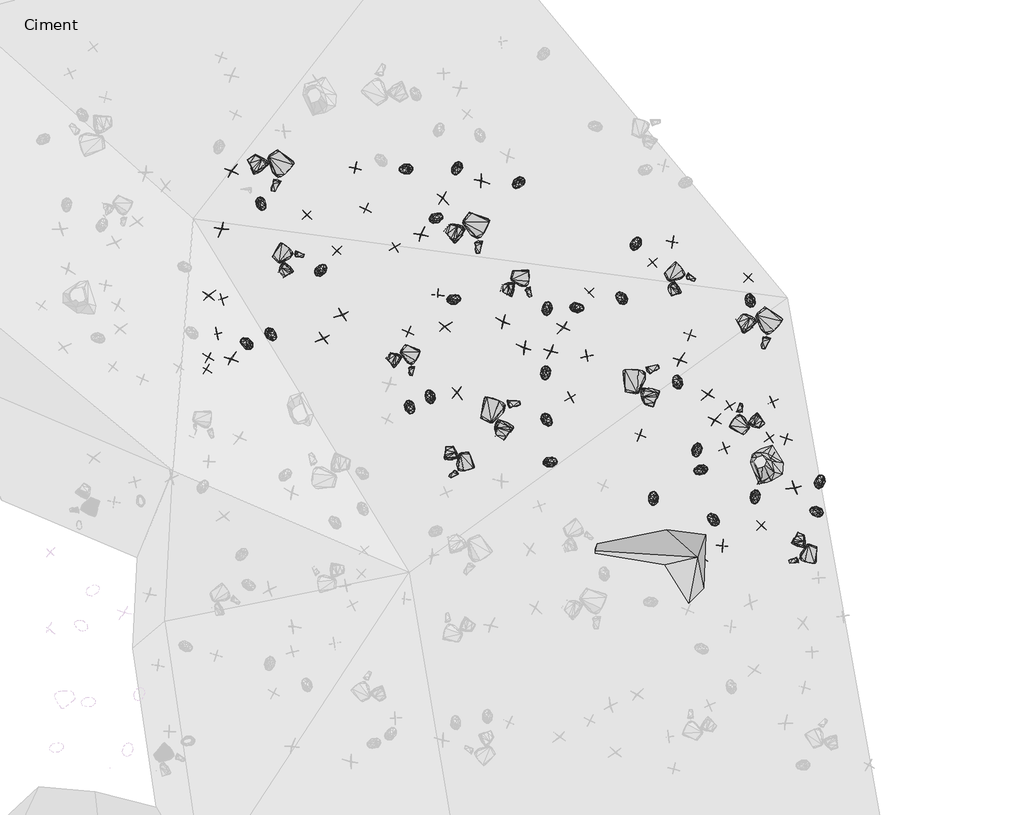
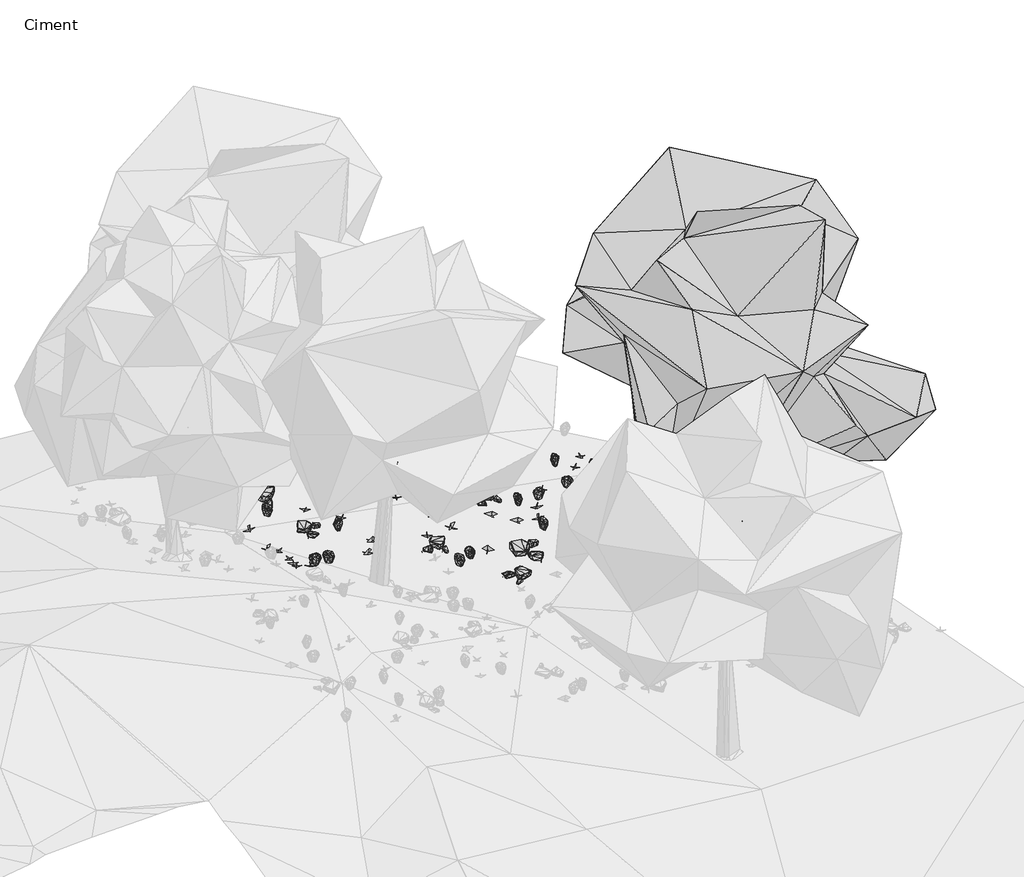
# One storey, part 28 of 30: 90 geographic elements.
"""IFC4 building model written with IfcOpenShell, lengths in millimetres."""

from ifc_helpers import new_model, si_unit, origin, place, context, project, spatial, transform, mapped, element, save
from components import enscape_assetdefinition_bush_025_fern_enscape_5718bf32, enscape_assetdefinition_bush_054_plant_09_version_2_enscape_7b546a12, enscape_assetdefinition_bush_062_plant_09_version_3_enscape_ccf8c8eb, enscape_assetdefinition_deciduous_tree_029_elm_enscape_e4c49baf, enscape_assetdefinition_stone_013_group_enscape_516da325, enscape_assetdefinition_stone_013_group_enscape_db9b3e91

model = new_model("IFC4")

# Units and contexts
model_context = context("Model", 3, world=origin())
ifc_project = project(units=[si_unit("LENGTHUNIT", "METRE", prefix="MILLI")], contexts=[model_context])

# Site, building, storey
site = spatial("IfcSite", under=ifc_project)
building = spatial("IfcBuilding", under=site)
storey = spatial("IfcBuildingStorey", under=building, Name="Ciment", Elevation=-1500.0)

# Geographic elements
placement = place(None, origin())
enscape_assetdefinition_bush_025_fern_enscape_shape = enscape_assetdefinition_bush_025_fern_enscape_5718bf32(model_context)
element("IfcGeographicElement", 1, ObjectType="Enscape AssetDefinition - Bush 025 Fern : Enscape AssetDefinition - Bush 025 Fern", at=placement, inside=storey, context=model_context, shape_type="MappedRepresentation", body=[
    mapped(enscape_assetdefinition_bush_025_fern_enscape_shape, transform((20054.4872284, 11288.0096436, -2184.7438812), x_axis=(0.42081183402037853, -0.9071479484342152, 0.0), y_axis=(0.9071479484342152, 0.42081183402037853, 0.0), z_axis=(0.0, 0.0, 1.0))),
])
element("IfcGeographicElement", 2, ObjectType="Enscape AssetDefinition - Bush 025 Fern : Enscape AssetDefinition - Bush 025 Fern", at=placement, inside=storey, context=model_context, shape_type="MappedRepresentation", body=[
    mapped(enscape_assetdefinition_bush_025_fern_enscape_shape, transform((20574.5754242, 14966.0453796, -2460.9181881), x_axis=(0.8968819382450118, 0.44227004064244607, 0.0), y_axis=(-0.44227004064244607, 0.8968819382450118, 0.0), z_axis=(0.0, 0.0, 1.0))),
])
element("IfcGeographicElement", 3, ObjectType="Enscape AssetDefinition - Bush 025 Fern : Enscape AssetDefinition - Bush 025 Fern", at=placement, inside=storey, context=model_context, shape_type="MappedRepresentation", body=[
    mapped(enscape_assetdefinition_bush_025_fern_enscape_shape, transform((17360.9600067, 12701.5390396, -2011.91926), x_axis=(0.7112962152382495, -0.7028923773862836, 0.0), y_axis=(0.7028923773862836, 0.7112962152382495, 0.0), z_axis=(0.0, 0.0, 1.0))),
])
element("IfcGeographicElement", 4, ObjectType="Enscape AssetDefinition - Bush 025 Fern : Enscape AssetDefinition - Bush 025 Fern", at=placement, inside=storey, context=model_context, shape_type="MappedRepresentation", body=[
    mapped(enscape_assetdefinition_bush_025_fern_enscape_shape, transform((25695.8351135, 10081.7260742, -2724.1954803), x_axis=(-0.9284186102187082, -0.37153584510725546, 0.0), y_axis=(0.37153584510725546, -0.9284186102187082, 0.0), z_axis=(0.0, 0.0, 1.0))),
])
element("IfcGeographicElement", 5, ObjectType="Enscape AssetDefinition - Bush 025 Fern : Enscape AssetDefinition - Bush 025 Fern", at=placement, inside=storey, context=model_context, shape_type="MappedRepresentation", body=[
    mapped(enscape_assetdefinition_bush_025_fern_enscape_shape, transform((19975.7595062, 15923.0690002, -2480.4565907), x_axis=(-0.9720509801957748, -0.234769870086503, 0.0), y_axis=(0.234769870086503, -0.9720509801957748, 0.0), z_axis=(0.0, 0.0, 1.0))),
])
element("IfcGeographicElement", 6, ObjectType="Enscape AssetDefinition - Bush 025 Fern : Enscape AssetDefinition - Bush 025 Fern", at=placement, inside=storey, context=model_context, shape_type="MappedRepresentation", body=[
    mapped(enscape_assetdefinition_bush_025_fern_enscape_shape, transform((28021.9211578, 9855.6346893, -2999.9074936), x_axis=(0.2128321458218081, 0.9770887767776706, 0.0), y_axis=(-0.9770887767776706, 0.2128321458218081, 0.0), z_axis=(0.0, 0.0, 1.0))),
])
element("IfcGeographicElement", 7, ObjectType="Enscape AssetDefinition - Bush 025 Fern : Enscape AssetDefinition - Bush 025 Fern", at=placement, inside=storey, context=model_context, shape_type="MappedRepresentation", body=[
    mapped(enscape_assetdefinition_bush_025_fern_enscape_shape, transform((16887.6781464, 12540.3356552, -1802.878499), x_axis=(-0.8465345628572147, 0.5323337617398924, 0.0), y_axis=(-0.5323337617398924, -0.8465345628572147, 0.0), z_axis=(0.0, 0.0, 1.0))),
])
element("IfcGeographicElement", 8, ObjectType="Enscape AssetDefinition - Bush 025 Fern : Enscape AssetDefinition - Bush 025 Fern", at=placement, inside=storey, context=model_context, shape_type="MappedRepresentation", body=[
    mapped(enscape_assetdefinition_bush_025_fern_enscape_shape, transform((24170.1641083, 13421.8769073, -2696.1760521), x_axis=(-0.7315113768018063, 0.6818292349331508, 0.0), y_axis=(-0.6818292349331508, -0.7315113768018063, 0.0), z_axis=(0.0, 0.0, 1.0))),
])
element("IfcGeographicElement", 9, ObjectType="Enscape AssetDefinition - Bush 025 Fern : Enscape AssetDefinition - Bush 025 Fern", at=placement, inside=storey, context=model_context, shape_type="MappedRepresentation", body=[
    mapped(enscape_assetdefinition_bush_025_fern_enscape_shape, transform((17167.8752899, 15236.1040115, -2150.5351067), x_axis=(0.4676897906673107, -0.8838926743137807, 0.0), y_axis=(0.8838926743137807, 0.4676897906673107, 0.0), z_axis=(0.0, 0.0, 1.0))),
])
element("IfcGeographicElement", 10, ObjectType="Enscape AssetDefinition - Bush 025 Fern : Enscape AssetDefinition - Bush 025 Fern", at=placement, inside=storey, context=model_context, shape_type="MappedRepresentation", body=[
    mapped(enscape_assetdefinition_bush_025_fern_enscape_shape, transform((25624.2542267, 10458.8899612, -2723.654747), x_axis=(-0.10068082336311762, -0.9949187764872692, 0.0), y_axis=(0.9949187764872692, -0.10068082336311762, 0.0), z_axis=(0.0, 0.0, 1.0))),
])
element("IfcGeographicElement", 11, ObjectType="Enscape AssetDefinition - Bush 025 Fern : Enscape AssetDefinition - Bush 025 Fern", at=placement, inside=storey, context=model_context, shape_type="MappedRepresentation", body=[
    mapped(enscape_assetdefinition_bush_025_fern_enscape_shape, transform((22791.7385101, 10229.4559479, -2382.1463585), x_axis=(0.9596051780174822, 0.281350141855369, 0.0), y_axis=(-0.281350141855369, 0.9596051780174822, 0.0), z_axis=(0.0, 0.0, 1.0))),
])
element("IfcGeographicElement", 12, ObjectType="Enscape AssetDefinition - Bush 025 Fern : Enscape AssetDefinition - Bush 025 Fern", at=placement, inside=storey, context=model_context, shape_type="MappedRepresentation", body=[
    mapped(enscape_assetdefinition_bush_025_fern_enscape_shape, transform((25947.8054047, 9123.1899261, -2734.0171337), x_axis=(-0.7325266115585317, 0.6807383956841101, 0.0), y_axis=(-0.6807383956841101, -0.7325266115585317, 0.0), z_axis=(0.0, 0.0, 1.0))),
])
element("IfcGeographicElement", 13, ObjectType="Enscape AssetDefinition - Bush 025 Fern : Enscape AssetDefinition - Bush 025 Fern", at=placement, inside=storey, context=model_context, shape_type="MappedRepresentation", body=[
    mapped(enscape_assetdefinition_bush_025_fern_enscape_shape, transform((20919.462204, 13388.1931305, -2387.3839378), x_axis=(0.9491984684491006, 0.314678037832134, 0.0), y_axis=(-0.314678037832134, 0.9491984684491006, 0.0), z_axis=(0.0, 0.0, 1.0))),
])
element("IfcGeographicElement", 14, ObjectType="Enscape AssetDefinition - Bush 025 Fern : Enscape AssetDefinition - Bush 025 Fern", at=placement, inside=storey, context=model_context, shape_type="MappedRepresentation", body=[
    mapped(enscape_assetdefinition_bush_025_fern_enscape_shape, transform((23308.2904816, 13223.4430313, -2603.3878326), x_axis=(0.9997012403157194, 0.024442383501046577, 0.0), y_axis=(-0.024442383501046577, 0.9997012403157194, 0.0), z_axis=(0.0, 0.0, 1.0))),
])
element("IfcGeographicElement", 15, ObjectType="Enscape AssetDefinition - Bush 025 Fern : Enscape AssetDefinition - Bush 025 Fern", at=placement, inside=storey, context=model_context, shape_type="MappedRepresentation", body=[
    mapped(enscape_assetdefinition_bush_025_fern_enscape_shape, transform((22728.0769348, 13217.5073624, -2548.2764244), x_axis=(0.06502265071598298, 0.9978837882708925, 0.0), y_axis=(-0.9978837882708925, 0.06502265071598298, 0.0), z_axis=(0.0, 0.0, 1.0))),
])
element("IfcGeographicElement", 16, ObjectType="Enscape AssetDefinition - Bush 025 Fern : Enscape AssetDefinition - Bush 025 Fern", at=placement, inside=storey, context=model_context, shape_type="MappedRepresentation", body=[
    mapped(enscape_assetdefinition_bush_025_fern_enscape_shape, transform((20962.6693726, 15930.2425385, -2577.3310661), x_axis=(-0.3619911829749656, -0.9321815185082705, 0.0), y_axis=(0.9321815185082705, -0.3619911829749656, 0.0), z_axis=(0.0, 0.0, 1.0))),
])
element("IfcGeographicElement", 17, ObjectType="Enscape AssetDefinition - Bush 025 Fern : Enscape AssetDefinition - Bush 025 Fern", at=placement, inside=storey, context=model_context, shape_type="MappedRepresentation", body=[
    mapped(enscape_assetdefinition_bush_025_fern_enscape_shape, transform((18337.7285004, 13959.5375061, -2176.5942574), x_axis=(0.6322726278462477, 0.7747459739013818, 0.0), y_axis=(-0.7747459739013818, 0.6322726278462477, 0.0), z_axis=(0.0, 0.0, 1.0))),
])
element("IfcGeographicElement", 18, ObjectType="Enscape AssetDefinition - Bush 025 Fern : Enscape AssetDefinition - Bush 025 Fern", at=placement, inside=storey, context=model_context, shape_type="MappedRepresentation", body=[
    mapped(enscape_assetdefinition_bush_025_fern_enscape_shape, transform((22159.6431732, 15652.0547867, -2671.454668), x_axis=(-0.6968074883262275, -0.7172581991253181, 0.0), y_axis=(0.7172581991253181, -0.6968074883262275, 0.0), z_axis=(0.0, 0.0, 1.0))),
])
element("IfcGeographicElement", 19, ObjectType="Enscape AssetDefinition - Bush 025 Fern : Enscape AssetDefinition - Bush 025 Fern", at=placement, inside=storey, context=model_context, shape_type="MappedRepresentation", body=[
    mapped(enscape_assetdefinition_bush_025_fern_enscape_shape, transform((25253.6029816, 11793.8661575, -2707.596302), x_axis=(-0.36513170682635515, 0.9309558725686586, 0.0), y_axis=(-0.9309558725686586, -0.36513170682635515, 0.0), z_axis=(0.0, 0.0, 1.0))),
])
element("IfcGeographicElement", 20, ObjectType="Enscape AssetDefinition - Bush 025 Fern : Enscape AssetDefinition - Bush 025 Fern", at=placement, inside=storey, context=model_context, shape_type="MappedRepresentation", body=[
    mapped(enscape_assetdefinition_bush_025_fern_enscape_shape, transform((27944.9939728, 9275.6290436, -2978.1823158), x_axis=(-0.9803123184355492, 0.19745318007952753, 0.0), y_axis=(-0.19745318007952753, -0.9803123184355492, 0.0), z_axis=(0.0, 0.0, 1.0))),
])
element("IfcGeographicElement", 21, ObjectType="Enscape AssetDefinition - Bush 025 Fern : Enscape AssetDefinition - Bush 025 Fern", at=placement, inside=storey, context=model_context, shape_type="MappedRepresentation", body=[
    mapped(enscape_assetdefinition_bush_025_fern_enscape_shape, transform((24789.6556854, 9534.7900391, -2603.1579971), x_axis=(-0.13992691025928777, 0.9901618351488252, 0.0), y_axis=(-0.9901618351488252, -0.13992691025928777, 0.0), z_axis=(0.0, 0.0, 1.0))),
])
element("IfcGeographicElement", 22, ObjectType="Enscape AssetDefinition - Bush 025 Fern : Enscape AssetDefinition - Bush 025 Fern", at=placement, inside=storey, context=model_context, shape_type="MappedRepresentation", body=[
    mapped(enscape_assetdefinition_bush_025_fern_enscape_shape, transform((22687.9673004, 11953.5217285, -2471.6727734), x_axis=(0.043731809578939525, -0.9990433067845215, 0.0), y_axis=(0.9990433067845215, 0.043731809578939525, 0.0), z_axis=(0.0, 0.0, 1.0))),
])
element("IfcGeographicElement", 23, ObjectType="Enscape AssetDefinition - Bush 025 Fern : Enscape AssetDefinition - Bush 025 Fern", at=placement, inside=storey, context=model_context, shape_type="MappedRepresentation", body=[
    mapped(enscape_assetdefinition_bush_025_fern_enscape_shape, transform((26664.7186279, 13377.6254654, -2929.1012287), x_axis=(-0.4103715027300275, 0.9119184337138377, 0.0), y_axis=(-0.9119184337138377, -0.4103715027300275, 0.0), z_axis=(0.0, 0.0, 1.0))),
])
element("IfcGeographicElement", 24, ObjectType="Enscape AssetDefinition - Bush 025 Fern : Enscape AssetDefinition - Bush 025 Fern", at=placement, inside=storey, context=model_context, shape_type="MappedRepresentation", body=[
    mapped(enscape_assetdefinition_bush_025_fern_enscape_shape, transform((22715.801239, 11043.9596176, -2421.9014645), x_axis=(0.6394990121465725, -0.76879191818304, 0.0), y_axis=(0.76879191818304, 0.6394990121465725, 0.0), z_axis=(0.0, 0.0, 1.0))),
])
element("IfcGeographicElement", 25, ObjectType="Enscape AssetDefinition - Bush 025 Fern : Enscape AssetDefinition - Bush 025 Fern", at=placement, inside=storey, context=model_context, shape_type="MappedRepresentation", body=[
    mapped(enscape_assetdefinition_bush_025_fern_enscape_shape, transform((26757.226944, 9548.1481552, -2840.7664299), x_axis=(0.008983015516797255, -0.9999596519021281, 0.0), y_axis=(0.9999596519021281, 0.008983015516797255, 0.0), z_axis=(0.0, 0.0, 1.0))),
])
element("IfcGeographicElement", 26, ObjectType="Enscape AssetDefinition - Bush 025 Fern : Enscape AssetDefinition - Bush 025 Fern", at=placement, inside=storey, context=model_context, shape_type="MappedRepresentation", body=[
    mapped(enscape_assetdefinition_bush_025_fern_enscape_shape, transform((25161.5505219, 8557.7907562, -2627.0489693), x_axis=(-0.22365178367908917, -0.9746691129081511, 0.0), y_axis=(0.9746691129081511, -0.22365178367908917, 0.0), z_axis=(0.0, 0.0, 1.0))),
])
element("IfcGeographicElement", 27, ObjectType="Enscape AssetDefinition - Bush 025 Fern : Enscape AssetDefinition - Bush 025 Fern", at=placement, inside=storey, context=model_context, shape_type="MappedRepresentation", body=[
    mapped(enscape_assetdefinition_bush_025_fern_enscape_shape, transform((24452.6767731, 14474.7238159, -2799.270153), x_axis=(0.405579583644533, 0.9140597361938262, 0.0), y_axis=(-0.9140597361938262, 0.405579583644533, 0.0), z_axis=(0.0, 0.0, 1.0))),
])
element("IfcGeographicElement", 28, ObjectType="Enscape AssetDefinition - Bush 025 Fern : Enscape AssetDefinition - Bush 025 Fern", at=placement, inside=storey, context=model_context, shape_type="MappedRepresentation", body=[
    mapped(enscape_assetdefinition_bush_025_fern_enscape_shape, transform((20451.9176483, 11509.0522766, -2234.9936962), x_axis=(-0.3989230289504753, 0.9169844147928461, 0.0), y_axis=(-0.9169844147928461, -0.3989230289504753, 0.0), z_axis=(0.0, 0.0, 1.0))),
])
enscape_assetdefinition_bush_054_plant_09_version_2_enscape_shape = enscape_assetdefinition_bush_054_plant_09_version_2_enscape_7b546a12(model_context)
element("IfcGeographicElement", 29, ObjectType="Enscape AssetDefinition - Bush 054 Plant 09, Version 2 : Enscape AssetDefinition - Bush 054 Plant 09, Version 2", at=placement, inside=storey, context=model_context, shape_type="MappedRepresentation", body=[
    mapped(enscape_assetdefinition_bush_054_plant_09_version_2_enscape_shape, transform((20023.7560272, 12756.3581467, -2266.433239), x_axis=(-0.35693646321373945, -0.9341286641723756, 0.0), y_axis=(0.9341286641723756, -0.35693646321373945, 0.0), z_axis=(0.0, 0.0, 1.0))),
])
element("IfcGeographicElement", 30, ObjectType="Enscape AssetDefinition - Bush 054 Plant 09, Version 2 : Enscape AssetDefinition - Bush 054 Plant 09, Version 2", at=placement, inside=storey, context=model_context, shape_type="MappedRepresentation", body=[
    mapped(enscape_assetdefinition_bush_054_plant_09_version_2_enscape_shape, transform((27043.0164337, 10697.7024078, -2899.90592), x_axis=(0.7793981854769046, 0.6265289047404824, 0.0), y_axis=(-0.6265289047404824, 0.7793981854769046, 0.0), z_axis=(0.0, 0.0, 1.0))),
])
element("IfcGeographicElement", 31, ObjectType="Enscape AssetDefinition - Bush 054 Plant 09, Version 2 : Enscape AssetDefinition - Bush 054 Plant 09, Version 2", at=placement, inside=storey, context=model_context, shape_type="MappedRepresentation", body=[
    mapped(enscape_assetdefinition_bush_054_plant_09_version_2_enscape_shape, transform((23177.6275635, 11481.2431335, -2490.6871319), x_axis=(0.8394634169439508, 0.5434162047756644, 0.0), y_axis=(-0.5434162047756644, 0.8394634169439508, 0.0), z_axis=(0.0, 0.0, 1.0))),
])
element("IfcGeographicElement", 32, ObjectType="Enscape AssetDefinition - Bush 054 Plant 09, Version 2 : Enscape AssetDefinition - Bush 054 Plant 09, Version 2", at=placement, inside=storey, context=model_context, shape_type="MappedRepresentation", body=[
    mapped(enscape_assetdefinition_bush_054_plant_09_version_2_enscape_shape, transform((25155.6529999, 14499.917984, -2869.9102402), x_axis=(0.9954288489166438, -0.09550605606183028, 0.0), y_axis=(0.09550605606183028, 0.9954288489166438, 0.0), z_axis=(0.0, 0.0, 1.0))),
])
element("IfcGeographicElement", 33, ObjectType="Enscape AssetDefinition - Bush 054 Plant 09, Version 2 : Enscape AssetDefinition - Bush 054 Plant 09, Version 2", at=placement, inside=storey, context=model_context, shape_type="MappedRepresentation", body=[
    mapped(enscape_assetdefinition_bush_054_plant_09_version_2_enscape_shape, transform((20596.3840485, 13476.1457443, -2361.9530201), x_axis=(0.0016314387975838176, -0.9999986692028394, 0.0), y_axis=(0.9999986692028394, 0.0016314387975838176, 0.0), z_axis=(0.0, 0.0, 1.0))),
])
element("IfcGeographicElement", 34, ObjectType="Enscape AssetDefinition - Bush 054 Plant 09, Version 2 : Enscape AssetDefinition - Bush 054 Plant 09, Version 2", at=placement, inside=storey, context=model_context, shape_type="MappedRepresentation", body=[
    mapped(enscape_assetdefinition_bush_054_plant_09_version_2_enscape_shape, transform((27066.9956207, 10318.9544678, -2894.6707249), x_axis=(-0.5060645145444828, -0.8624956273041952, 0.0), y_axis=(0.8624956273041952, -0.5060645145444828, 0.0), z_axis=(0.0, 0.0, 1.0))),
])
element("IfcGeographicElement", 35, ObjectType="Enscape AssetDefinition - Bush 054 Plant 09, Version 2 : Enscape AssetDefinition - Bush 054 Plant 09, Version 2", at=placement, inside=storey, context=model_context, shape_type="MappedRepresentation", body=[
    mapped(enscape_assetdefinition_bush_054_plant_09_version_2_enscape_shape, transform((19196.8631744, 15142.537117, -2340.8763409), x_axis=(-0.3776218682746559, -0.9259598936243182, 0.0), y_axis=(0.9259598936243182, -0.3776218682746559, 0.0), z_axis=(0.0, 0.0, 1.0))),
])
element("IfcGeographicElement", 36, ObjectType="Enscape AssetDefinition - Bush 054 Plant 09, Version 2 : Enscape AssetDefinition - Bush 054 Plant 09, Version 2", at=placement, inside=storey, context=model_context, shape_type="MappedRepresentation", body=[
    mapped(enscape_assetdefinition_bush_054_plant_09_version_2_enscape_shape, transform((24776.8993378, 14107.9015732, -2801.0210991), x_axis=(-0.6989738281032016, 0.7151472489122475, 0.0), y_axis=(-0.7151472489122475, -0.6989738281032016, 0.0), z_axis=(0.0, 0.0, 1.0))),
])
element("IfcGeographicElement", 37, ObjectType="Enscape AssetDefinition - Bush 054 Plant 09, Version 2 : Enscape AssetDefinition - Bush 054 Plant 09, Version 2", at=placement, inside=storey, context=model_context, shape_type="MappedRepresentation", body=[
    mapped(enscape_assetdefinition_bush_054_plant_09_version_2_enscape_shape, transform((18639.6808624, 14332.8084946, -2226.6011238), x_axis=(0.7440912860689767, -0.6680779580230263, 0.0), y_axis=(0.6680779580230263, 0.7440912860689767, 0.0), z_axis=(0.0, 0.0, 1.0))),
])
element("IfcGeographicElement", 38, ObjectType="Enscape AssetDefinition - Bush 054 Plant 09, Version 2 : Enscape AssetDefinition - Bush 054 Plant 09, Version 2", at=placement, inside=storey, context=model_context, shape_type="MappedRepresentation", body=[
    mapped(enscape_assetdefinition_bush_054_plant_09_version_2_enscape_shape, transform((27368.9517975, 10686.4261627, -2938.9777184), x_axis=(0.24224091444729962, 0.970216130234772, 0.0), y_axis=(-0.970216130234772, 0.24224091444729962, 0.0), z_axis=(0.0, 0.0, 1.0))),
])
element("IfcGeographicElement", 39, ObjectType="Enscape AssetDefinition - Bush 054 Plant 09, Version 2 : Enscape AssetDefinition - Bush 054 Plant 09, Version 2", at=placement, inside=storey, context=model_context, shape_type="MappedRepresentation", body=[
    mapped(enscape_assetdefinition_bush_054_plant_09_version_2_enscape_shape, transform((23538.3167267, 13524.559021, -2642.4479485), x_axis=(-0.6711086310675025, -0.7413590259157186, 0.0), y_axis=(0.7413590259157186, -0.6711086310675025, 0.0), z_axis=(0.0, 0.0, 1.0))),
])
element("IfcGeographicElement", 40, ObjectType="Enscape AssetDefinition - Bush 054 Plant 09, Version 2 : Enscape AssetDefinition - Bush 054 Plant 09, Version 2", at=placement, inside=storey, context=model_context, shape_type="MappedRepresentation", body=[
    mapped(enscape_assetdefinition_bush_054_plant_09_version_2_enscape_shape, transform((26863.7123108, 9900.188446, -2861.1655235), x_axis=(0.8253308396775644, -0.5646494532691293, 0.0), y_axis=(0.5646494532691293, 0.8253308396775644, 0.0), z_axis=(0.0, 0.0, 1.0))),
])
element("IfcGeographicElement", 41, ObjectType="Enscape AssetDefinition - Bush 054 Plant 09, Version 2 : Enscape AssetDefinition - Bush 054 Plant 09, Version 2", at=placement, inside=storey, context=model_context, shape_type="MappedRepresentation", body=[
    mapped(enscape_assetdefinition_bush_054_plant_09_version_2_enscape_shape, transform((18993.7114716, 15939.658165, -2385.9918118), x_axis=(-0.1620972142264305, -0.9867747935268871, 0.0), y_axis=(0.9867747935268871, -0.1620972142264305, 0.0), z_axis=(0.0, 0.0, 1.0))),
])
element("IfcGeographicElement", 42, ObjectType="Enscape AssetDefinition - Bush 054 Plant 09, Version 2 : Enscape AssetDefinition - Bush 054 Plant 09, Version 2", at=placement, inside=storey, context=model_context, shape_type="MappedRepresentation", body=[
    mapped(enscape_assetdefinition_bush_054_plant_09_version_2_enscape_shape, transform((26629.7855377, 13807.4216843, -2957.324028), x_axis=(0.6329784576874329, 0.7741694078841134, 0.0), y_axis=(-0.7741694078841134, 0.6329784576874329, 0.0), z_axis=(0.0, 0.0, 1.0))),
])
element("IfcGeographicElement", 43, ObjectType="Enscape AssetDefinition - Bush 054 Plant 09, Version 2 : Enscape AssetDefinition - Bush 054 Plant 09, Version 2", at=placement, inside=storey, context=model_context, shape_type="MappedRepresentation", body=[
    mapped(enscape_assetdefinition_bush_054_plant_09_version_2_enscape_shape, transform((26262.4034882, 11317.8405762, -2819.0588951), x_axis=(0.5719176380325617, -0.8203110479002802, 0.0), y_axis=(0.8203110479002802, 0.5719176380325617, 0.0), z_axis=(0.0, 0.0, 1.0))),
])
element("IfcGeographicElement", 44, ObjectType="Enscape AssetDefinition - Bush 054 Plant 09, Version 2 : Enscape AssetDefinition - Bush 054 Plant 09, Version 2", at=placement, inside=storey, context=model_context, shape_type="MappedRepresentation", body=[
    mapped(enscape_assetdefinition_bush_054_plant_09_version_2_enscape_shape, transform((27098.9246368, 11404.7431946, -2921.8220711), x_axis=(-0.8916959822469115, -0.45263481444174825, 0.0), y_axis=(0.45263481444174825, -0.8916959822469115, 0.0), z_axis=(0.0, 0.0, 1.0))),
])
element("IfcGeographicElement", 45, ObjectType="Enscape AssetDefinition - Bush 054 Plant 09, Version 2 : Enscape AssetDefinition - Bush 054 Plant 09, Version 2", at=placement, inside=storey, context=model_context, shape_type="MappedRepresentation", body=[
    mapped(enscape_assetdefinition_bush_054_plant_09_version_2_enscape_shape, transform((18062.4675751, 15024.7421265, -2220.6001282), x_axis=(0.6651081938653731, 0.7467470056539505, 0.0), y_axis=(-0.7467470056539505, 0.6651081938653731, 0.0), z_axis=(0.0, 0.0, 1.0))),
])
element("IfcGeographicElement", 46, ObjectType="Enscape AssetDefinition - Bush 054 Plant 09, Version 2 : Enscape AssetDefinition - Bush 054 Plant 09, Version 2", at=placement, inside=storey, context=model_context, shape_type="MappedRepresentation", body=[
    mapped(enscape_assetdefinition_bush_054_plant_09_version_2_enscape_shape, transform((19775.1941681, 14405.5318832, -2337.9778862), x_axis=(-0.5773016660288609, 0.8165309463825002, 0.0), y_axis=(-0.8165309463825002, -0.5773016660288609, 0.0), z_axis=(0.0, 0.0, 1.0))),
])
element("IfcGeographicElement", 47, ObjectType="Enscape AssetDefinition - Bush 054 Plant 09, Version 2 : Enscape AssetDefinition - Bush 054 Plant 09, Version 2", at=placement, inside=storey, context=model_context, shape_type="MappedRepresentation", body=[
    mapped(enscape_assetdefinition_bush_054_plant_09_version_2_enscape_shape, transform((23488.1916046, 12287.5242233, -2566.4517879), x_axis=(0.25392687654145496, -0.9672234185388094, 0.0), y_axis=(0.9672234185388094, 0.25392687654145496, 0.0), z_axis=(0.0, 0.0, 1.0))),
])
element("IfcGeographicElement", 48, ObjectType="Enscape AssetDefinition - Bush 054 Plant 09, Version 2 : Enscape AssetDefinition - Bush 054 Plant 09, Version 2", at=placement, inside=storey, context=model_context, shape_type="MappedRepresentation", body=[
    mapped(enscape_assetdefinition_bush_054_plant_09_version_2_enscape_shape, transform((26884.38797, 8996.3884354, -2844.2640305), x_axis=(0.641741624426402, 0.7669209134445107, 0.0), y_axis=(-0.7669209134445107, 0.641741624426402, 0.0), z_axis=(0.0, 0.0, 1.0))),
])
element("IfcGeographicElement", 49, ObjectType="Enscape AssetDefinition - Bush 054 Plant 09, Version 2 : Enscape AssetDefinition - Bush 054 Plant 09, Version 2", at=placement, inside=storey, context=model_context, shape_type="MappedRepresentation", body=[
    mapped(enscape_assetdefinition_bush_054_plant_09_version_2_enscape_shape, transform((24527.6966095, 10757.9021454, -2597.8088379), x_axis=(-0.9537206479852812, 0.30069407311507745, 0.0), y_axis=(-0.30069407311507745, -0.9537206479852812, 0.0), z_axis=(0.0, 0.0, 1.0))),
])
element("IfcGeographicElement", 50, ObjectType="Enscape AssetDefinition - Bush 054 Plant 09, Version 2 : Enscape AssetDefinition - Bush 054 Plant 09, Version 2", at=placement, inside=storey, context=model_context, shape_type="MappedRepresentation", body=[
    mapped(enscape_assetdefinition_bush_054_plant_09_version_2_enscape_shape, transform((26169.7216034, 10495.262146, -2790.2281284), x_axis=(0.9085521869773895, 0.4177713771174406, 0.0), y_axis=(-0.4177713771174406, 0.9085521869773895, 0.0), z_axis=(0.0, 0.0, 1.0))),
])
element("IfcGeographicElement", 51, ObjectType="Enscape AssetDefinition - Bush 054 Plant 09, Version 2 : Enscape AssetDefinition - Bush 054 Plant 09, Version 2", at=placement, inside=storey, context=model_context, shape_type="MappedRepresentation", body=[
    mapped(enscape_assetdefinition_bush_054_plant_09_version_2_enscape_shape, transform((25738.7485504, 8376.490593, -2692.7778721), x_axis=(-0.8873557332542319, 0.4610854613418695, 0.0), y_axis=(-0.4610854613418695, -0.8873557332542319, 0.0), z_axis=(0.0, 0.0, 1.0))),
])
element("IfcGeographicElement", 52, ObjectType="Enscape AssetDefinition - Bush 054 Plant 09, Version 2 : Enscape AssetDefinition - Bush 054 Plant 09, Version 2", at=placement, inside=storey, context=model_context, shape_type="MappedRepresentation", body=[
    mapped(enscape_assetdefinition_bush_054_plant_09_version_2_enscape_shape, transform((16309.4367981, 12716.1588669, -1594.450593), x_axis=(0.9693168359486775, 0.24581470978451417, 0.0), y_axis=(-0.24581470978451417, 0.9693168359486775, 0.0), z_axis=(0.0, 0.0, 1.0))),
])
element("IfcGeographicElement", 53, ObjectType="Enscape AssetDefinition - Bush 054 Plant 09, Version 2 : Enscape AssetDefinition - Bush 054 Plant 09, Version 2", at=placement, inside=storey, context=model_context, shape_type="MappedRepresentation", body=[
    mapped(enscape_assetdefinition_bush_054_plant_09_version_2_enscape_shape, transform((16413.1298065, 13396.8086243, -1824.1904974), x_axis=(-0.34982229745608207, 0.9368160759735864, 0.0), y_axis=(-0.9368160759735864, -0.34982229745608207, 0.0), z_axis=(0.0, 0.0, 1.0))),
])
element("IfcGeographicElement", 54, ObjectType="Enscape AssetDefinition - Bush 054 Plant 09, Version 2 : Enscape AssetDefinition - Bush 054 Plant 09, Version 2", at=placement, inside=storey, context=model_context, shape_type="MappedRepresentation", body=[
    mapped(enscape_assetdefinition_bush_054_plant_09_version_2_enscape_shape, transform((25618.3414459, 8728.2238007, -2685.8029366), x_axis=(-0.4432931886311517, 0.8963766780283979, 0.0), y_axis=(-0.8963766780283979, -0.4432931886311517, 0.0), z_axis=(0.0, 0.0, 1.0))),
])
element("IfcGeographicElement", 55, ObjectType="Enscape AssetDefinition - Bush 054 Plant 09, Version 2 : Enscape AssetDefinition - Bush 054 Plant 09, Version 2", at=placement, inside=storey, context=model_context, shape_type="MappedRepresentation", body=[
    mapped(enscape_assetdefinition_bush_054_plant_09_version_2_enscape_shape, transform((16108.3393097, 12030.166626, -1320.161581), x_axis=(-0.8839772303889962, 0.4675299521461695, 0.0), y_axis=(-0.4675299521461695, -0.8839772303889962, 0.0), z_axis=(0.0, 0.0, 1.0))),
])
element("IfcGeographicElement", 56, ObjectType="Enscape AssetDefinition - Bush 054 Plant 09, Version 2 : Enscape AssetDefinition - Bush 054 Plant 09, Version 2", at=placement, inside=storey, context=model_context, shape_type="MappedRepresentation", body=[
    mapped(enscape_assetdefinition_bush_054_plant_09_version_2_enscape_shape, transform((25498.7201691, 12698.179245, -2779.8938751), x_axis=(0.262816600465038, 0.9648458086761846, 0.0), y_axis=(-0.9648458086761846, 0.262816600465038, 0.0), z_axis=(0.0, 0.0, 1.0))),
])
element("IfcGeographicElement", 57, ObjectType="Enscape AssetDefinition - Bush 054 Plant 09, Version 2 : Enscape AssetDefinition - Bush 054 Plant 09, Version 2", at=placement, inside=storey, context=model_context, shape_type="MappedRepresentation", body=[
    mapped(enscape_assetdefinition_bush_054_plant_09_version_2_enscape_shape, transform((26125.7190704, 8600.7137299, -2744.2643642), x_axis=(0.9996259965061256, -0.027347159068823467, 0.0), y_axis=(0.027347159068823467, 0.9996259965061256, 0.0), z_axis=(0.0, 0.0, 1.0))),
])
element("IfcGeographicElement", 58, ObjectType="Enscape AssetDefinition - Bush 054 Plant 09, Version 2 : Enscape AssetDefinition - Bush 054 Plant 09, Version 2", at=placement, inside=storey, context=model_context, shape_type="MappedRepresentation", body=[
    mapped(enscape_assetdefinition_bush_054_plant_09_version_2_enscape_shape, transform((16151.3957977, 12261.1503601, -1401.607275), x_axis=(0.44666159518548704, 0.8947029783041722, 0.0), y_axis=(-0.8947029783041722, 0.44666159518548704, 0.0), z_axis=(0.0, 0.0, 1.0))),
])
enscape_assetdefinition_bush_062_plant_09_version_3_enscape_shape = enscape_assetdefinition_bush_062_plant_09_version_3_enscape_ccf8c8eb(model_context)
element("IfcGeographicElement", 59, ObjectType="Enscape AssetDefinition - Bush 062 Plant 09, Version 3 : Enscape AssetDefinition - Bush 062 Plant 09, Version 3", at=placement, inside=storey, context=model_context, shape_type="MappedRepresentation", body=[
    mapped(enscape_assetdefinition_bush_062_plant_09_version_3_enscape_shape, transform((18733.8314056, 13083.6076736, -2163.5227203), x_axis=(-0.6182179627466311, 0.7860067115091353, 0.0), y_axis=(-0.7860067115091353, -0.6182179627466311, 0.0), z_axis=(0.0, 0.0, 1.0))),
])
element("IfcGeographicElement", 60, ObjectType="Enscape AssetDefinition - Bush 062 Plant 09, Version 3 : Enscape AssetDefinition - Bush 062 Plant 09, Version 3", at=placement, inside=storey, context=model_context, shape_type="MappedRepresentation", body=[
    mapped(enscape_assetdefinition_bush_062_plant_09_version_3_enscape_shape, transform((21456.6020966, 15689.6419525, -2605.922699), x_axis=(0.06624728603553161, -0.9978032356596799, 0.0), y_axis=(0.9978032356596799, 0.06624728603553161, 0.0), z_axis=(0.0, 0.0, 1.0))),
])
element("IfcGeographicElement", 61, ObjectType="Enscape AssetDefinition - Bush 062 Plant 09, Version 3 : Enscape AssetDefinition - Bush 062 Plant 09, Version 3", at=placement, inside=storey, context=model_context, shape_type="MappedRepresentation", body=[
    mapped(enscape_assetdefinition_bush_062_plant_09_version_3_enscape_shape, transform((25983.4346771, 11054.7523499, -2779.7646523), x_axis=(0.9437887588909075, -0.33054920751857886, 0.0), y_axis=(0.33054920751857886, 0.9437887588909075, 0.0), z_axis=(0.0, 0.0, 1.0))),
])
element("IfcGeographicElement", 62, ObjectType="Enscape AssetDefinition - Bush 062 Plant 09, Version 3 : Enscape AssetDefinition - Bush 062 Plant 09, Version 3", at=placement, inside=storey, context=model_context, shape_type="MappedRepresentation", body=[
    mapped(enscape_assetdefinition_bush_062_plant_09_version_3_enscape_shape, transform((16595.5638885, 12243.1631088, -1593.328476), x_axis=(0.9745801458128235, -0.22403914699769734, 0.0), y_axis=(0.22403914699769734, 0.9745801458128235, 0.0), z_axis=(0.0, 0.0, 1.0))),
])
element("IfcGeographicElement", 63, ObjectType="Enscape AssetDefinition - Bush 062 Plant 09, Version 3 : Enscape AssetDefinition - Bush 062 Plant 09, Version 3", at=placement, inside=storey, context=model_context, shape_type="MappedRepresentation", body=[
    mapped(enscape_assetdefinition_bush_062_plant_09_version_3_enscape_shape, transform((27513.1092072, 9726.9582748, -2935.77528), x_axis=(-0.4729310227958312, 0.8810994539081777, 0.0), y_axis=(-0.8810994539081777, -0.4729310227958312, 0.0), z_axis=(0.0, 0.0, 1.0))),
])
element("IfcGeographicElement", 64, ObjectType="Enscape AssetDefinition - Bush 062 Plant 09, Version 3 : Enscape AssetDefinition - Bush 062 Plant 09, Version 3", at=placement, inside=storey, context=model_context, shape_type="MappedRepresentation", body=[
    mapped(enscape_assetdefinition_bush_062_plant_09_version_3_enscape_shape, transform((25306.6577911, 12223.4869003, -2734.4174385), x_axis=(0.9820969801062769, -0.188376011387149, 0.0), y_axis=(0.188376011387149, 0.9820969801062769, 0.0), z_axis=(0.0, 0.0, 1.0))),
])
element("IfcGeographicElement", 65, ObjectType="Enscape AssetDefinition - Bush 062 Plant 09, Version 3 : Enscape AssetDefinition - Bush 062 Plant 09, Version 3", at=placement, inside=storey, context=model_context, shape_type="MappedRepresentation", body=[
    mapped(enscape_assetdefinition_bush_062_plant_09_version_3_enscape_shape, transform((21859.12323, 12955.2516937, -2451.1427879), x_axis=(0.11587649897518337, 0.9932636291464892, 0.0), y_axis=(-0.9932636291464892, 0.11587649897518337, 0.0), z_axis=(0.0, 0.0, 1.0))),
])
element("IfcGeographicElement", 66, ObjectType="Enscape AssetDefinition - Bush 062 Plant 09, Version 3 : Enscape AssetDefinition - Bush 062 Plant 09, Version 3", at=placement, inside=storey, context=model_context, shape_type="MappedRepresentation", body=[
    mapped(enscape_assetdefinition_bush_062_plant_09_version_3_enscape_shape, transform((18367.2504425, 12622.3659515, -2102.347374), x_axis=(-0.6906059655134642, 0.7232312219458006, 0.0), y_axis=(-0.7232312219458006, -0.6906059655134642, 0.0), z_axis=(0.0, 0.0, 1.0))),
])
element("IfcGeographicElement", 67, ObjectType="Enscape AssetDefinition - Bush 062 Plant 09, Version 3 : Enscape AssetDefinition - Bush 062 Plant 09, Version 3", at=placement, inside=storey, context=model_context, shape_type="MappedRepresentation", body=[
    mapped(enscape_assetdefinition_bush_062_plant_09_version_3_enscape_shape, transform((22269.0677643, 12450.387001, -2460.7541561), x_axis=(0.061175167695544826, 0.9981270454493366, 0.0), y_axis=(-0.9981270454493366, 0.061175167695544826, 0.0), z_axis=(0.0, 0.0, 1.0))),
])
element("IfcGeographicElement", 68, ObjectType="Enscape AssetDefinition - Bush 062 Plant 09, Version 3 : Enscape AssetDefinition - Bush 062 Plant 09, Version 3", at=placement, inside=storey, context=model_context, shape_type="MappedRepresentation", body=[
    mapped(enscape_assetdefinition_bush_062_plant_09_version_3_enscape_shape, transform((20277.1015167, 14658.1859589, -2406.815052), x_axis=(0.9982894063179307, -0.05846589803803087, 0.0), y_axis=(0.05846589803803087, 0.9982894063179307, 0.0), z_axis=(0.0, 0.0, 1.0))),
])
element("IfcGeographicElement", 69, ObjectType="Enscape AssetDefinition - Bush 062 Plant 09, Version 3 : Enscape AssetDefinition - Bush 062 Plant 09, Version 3", at=placement, inside=storey, context=model_context, shape_type="MappedRepresentation", body=[
    mapped(enscape_assetdefinition_bush_062_plant_09_version_3_enscape_shape, transform((16162.0121002, 13472.864151, -1733.5926294), x_axis=(0.86126764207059, -0.5081516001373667, 0.0), y_axis=(0.5081516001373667, 0.86126764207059, 0.0), z_axis=(0.0, 0.0, 1.0))),
])
element("IfcGeographicElement", 70, ObjectType="Enscape AssetDefinition - Bush 062 Plant 09, Version 3 : Enscape AssetDefinition - Bush 062 Plant 09, Version 3", at=placement, inside=storey, context=model_context, shape_type="MappedRepresentation", body=[
    mapped(enscape_assetdefinition_bush_062_plant_09_version_3_enscape_shape, transform((23027.6050568, 12835.3796005, -2554.5358658), x_axis=(-0.930775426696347, 0.3655914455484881, 0.0), y_axis=(-0.3655914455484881, -0.930775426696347, 0.0), z_axis=(0.0, 0.0, 1.0))),
])
element("IfcGeographicElement", 71, ObjectType="Enscape AssetDefinition - Bush 062 Plant 09, Version 3 : Enscape AssetDefinition - Bush 062 Plant 09, Version 3", at=placement, inside=storey, context=model_context, shape_type="MappedRepresentation", body=[
    mapped(enscape_assetdefinition_bush_062_plant_09_version_3_enscape_shape, transform((20746.4122772, 12869.5449829, -2341.1695957), x_axis=(0.8076454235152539, -0.5896684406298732, 0.0), y_axis=(0.5896684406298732, 0.8076454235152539, 0.0), z_axis=(0.0, 0.0, 1.0))),
])
element("IfcGeographicElement", 72, ObjectType="Enscape AssetDefinition - Bush 062 Plant 09, Version 3 : Enscape AssetDefinition - Bush 062 Plant 09, Version 3", at=placement, inside=storey, context=model_context, shape_type="MappedRepresentation", body=[
    mapped(enscape_assetdefinition_bush_062_plant_09_version_3_enscape_shape, transform((16604.8107147, 15889.1181946, -2148.7956047), x_axis=(0.9558379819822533, -0.2938941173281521, 0.0), y_axis=(0.2938941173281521, 0.9558379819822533, 0.0), z_axis=(0.0, 0.0, 1.0))),
])
element("IfcGeographicElement", 73, ObjectType="Enscape AssetDefinition - Bush 062 Plant 09, Version 3 : Enscape AssetDefinition - Bush 062 Plant 09, Version 3", at=placement, inside=storey, context=model_context, shape_type="MappedRepresentation", body=[
    mapped(enscape_assetdefinition_bush_062_plant_09_version_3_enscape_shape, transform((16403.1848907, 14742.9542542, -2039.1135216), x_axis=(-0.9999208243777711, 0.012583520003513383, 0.0), y_axis=(-0.012583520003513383, -0.9999208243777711, 0.0), z_axis=(0.0, 0.0, 1.0))),
])
element("IfcGeographicElement", 74, ObjectType="Enscape AssetDefinition - Bush 062 Plant 09, Version 3 : Enscape AssetDefinition - Bush 062 Plant 09, Version 3", at=placement, inside=storey, context=model_context, shape_type="MappedRepresentation", body=[
    mapped(enscape_assetdefinition_bush_062_plant_09_version_3_enscape_shape, transform((22791.5935516, 12369.0137863, -2505.3908825), x_axis=(-0.9932399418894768, 0.11607936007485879, 0.0), y_axis=(-0.11607936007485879, -0.9932399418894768, 0.0), z_axis=(0.0, 0.0, 1.0))),
])
element("IfcGeographicElement", 75, ObjectType="Enscape AssetDefinition - Bush 062 Plant 09, Version 3 : Enscape AssetDefinition - Bush 062 Plant 09, Version 3", at=placement, inside=storey, context=model_context, shape_type="MappedRepresentation", body=[
    mapped(enscape_assetdefinition_bush_062_plant_09_version_3_enscape_shape, transform((25837.4786377, 11533.1907272, -2772.4280357), x_axis=(-0.8965475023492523, 0.44294759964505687, 0.0), y_axis=(-0.44294759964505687, -0.8965475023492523, 0.0), z_axis=(0.0, 0.0, 1.0))),
])
element("IfcGeographicElement", 76, ObjectType="Enscape AssetDefinition - Bush 062 Plant 09, Version 3 : Enscape AssetDefinition - Bush 062 Plant 09, Version 3", at=placement, inside=storey, context=model_context, shape_type="MappedRepresentation", body=[
    mapped(enscape_assetdefinition_bush_062_plant_09_version_3_enscape_shape, transform((20984.7984314, 11572.1483231, -2288.9301777), x_axis=(-0.5107613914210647, -0.859722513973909, 0.0), y_axis=(0.859722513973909, -0.5107613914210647, 0.0), z_axis=(0.0, 0.0, 1.0))),
])
element("IfcGeographicElement", 77, ObjectType="Enscape AssetDefinition - Bush 062 Plant 09, Version 3 : Enscape AssetDefinition - Bush 062 Plant 09, Version 3", at=placement, inside=storey, context=model_context, shape_type="MappedRepresentation", body=[
    mapped(enscape_assetdefinition_bush_062_plant_09_version_3_enscape_shape, transform((20706.9206238, 15346.4431763, -2504.8203468), x_axis=(-0.41421839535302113, -0.9101775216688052, 0.0), y_axis=(0.9101775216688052, -0.41421839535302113, 0.0), z_axis=(0.0, 0.0, 1.0))),
])
enscape_assetdefinition_deciduous_tree_029_elm_enscape_shape = enscape_assetdefinition_deciduous_tree_029_elm_enscape_e4c49baf(model_context)
element("IfcGeographicElement", 78, ObjectType="Enscape AssetDefinition - Deciduous Tree 029 Elm : Enscape AssetDefinition - Deciduous Tree 029 Elm", at=placement, inside=storey, context=model_context, shape_type="MappedRepresentation", body=[
    mapped(enscape_assetdefinition_deciduous_tree_029_elm_enscape_shape, transform((26916.1376953, 10137.1669769, -2872.5728989), x_axis=(1.0, 0.0, 0.0), y_axis=(0.0, 1.0, 0.0), z_axis=(0.0, 0.0, 1.0))),
])
enscape_assetdefinition_stone_013_group_enscape_shape = enscape_assetdefinition_stone_013_group_enscape_516da325(model_context)
element("IfcGeographicElement", 79, ObjectType="Enscape AssetDefinition - Stone 013 Group : Enscape AssetDefinition - Stone 013 Group", at=placement, inside=storey, context=model_context, shape_type="MappedRepresentation", body=[
    mapped(enscape_assetdefinition_stone_013_group_enscape_shape, transform((21845.8538055, 11171.2770462, -2347.1167088), x_axis=(0.2734153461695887, 0.9618960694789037, 0.0), y_axis=(-0.9618960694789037, 0.2734153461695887, 0.0), z_axis=(0.0, 0.0, 1.0))),
])
element("IfcGeographicElement", 80, ObjectType="Enscape AssetDefinition - Stone 013 Group : Enscape AssetDefinition - Stone 013 Group", at=placement, inside=storey, context=model_context, shape_type="MappedRepresentation", body=[
    mapped(enscape_assetdefinition_stone_013_group_enscape_shape, transform((17380.1174164, 15893.8970566, -2224.8296738), x_axis=(0.7259166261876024, -0.6877827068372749, 0.0), y_axis=(0.6877827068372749, 0.7259166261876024, 0.0), z_axis=(0.0, 0.0, 1.0))),
])
element("IfcGeographicElement", 81, ObjectType="Enscape AssetDefinition - Stone 013 Group : Enscape AssetDefinition - Stone 013 Group", at=placement, inside=storey, context=model_context, shape_type="MappedRepresentation", body=[
    mapped(enscape_assetdefinition_stone_013_group_enscape_shape, transform((26868.4215546, 12834.1550827, -2924.6938229), x_axis=(0.7709161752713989, -0.6369366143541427, 0.0), y_axis=(0.6369366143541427, 0.7709161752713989, 0.0), z_axis=(0.0, 0.0, 1.0))),
])
element("IfcGeographicElement", 82, ObjectType="Enscape AssetDefinition - Stone 013 Group : Enscape AssetDefinition - Stone 013 Group", at=placement, inside=storey, context=model_context, shape_type="MappedRepresentation", body=[
    mapped(enscape_assetdefinition_stone_013_group_enscape_shape, transform((21233.1066132, 14662.7931595, -2500.4653931), x_axis=(0.9010846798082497, -0.43364317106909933, 0.0), y_axis=(0.43364317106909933, 0.9010846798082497, 0.0), z_axis=(0.0, 0.0, 1.0))),
])
element("IfcGeographicElement", 83, ObjectType="Enscape AssetDefinition - Stone 013 Group : Enscape AssetDefinition - Stone 013 Group", at=placement, inside=storey, context=model_context, shape_type="MappedRepresentation", body=[
    mapped(enscape_assetdefinition_stone_013_group_enscape_shape, transform((24608.8275909, 11792.5596237, -2643.7203884), x_axis=(0.0005343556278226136, 0.9999998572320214, 0.0), y_axis=(-0.9999998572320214, 0.0005343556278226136, 0.0), z_axis=(0.0, 0.0, 1.0))),
])
enscape_assetdefinition_stone_013_group_enscape_2_shape = enscape_assetdefinition_stone_013_group_enscape_db9b3e91(model_context)
element("IfcGeographicElement", 84, ObjectType="Enscape AssetDefinition - Stone 013 Group : Enscape AssetDefinition - Stone 013 Group 2", at=placement, inside=storey, context=model_context, shape_type="MappedRepresentation", body=[
    mapped(enscape_assetdefinition_stone_013_group_enscape_2_shape, transform((17701.6277313, 14176.8856049, -2129.070282), x_axis=(0.5874669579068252, 0.8092481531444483, 0.0), y_axis=(-0.8092481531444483, 0.5874669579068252, 0.0), z_axis=(0.0, 0.0, 1.0))),
])
element("IfcGeographicElement", 85, ObjectType="Enscape AssetDefinition - Stone 013 Group : Enscape AssetDefinition - Stone 013 Group 2", at=placement, inside=storey, context=model_context, shape_type="MappedRepresentation", body=[
    mapped(enscape_assetdefinition_stone_013_group_enscape_2_shape, transform((19977.8957367, 12196.6505051, -2229.8603058), x_axis=(0.8892109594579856, -0.4574973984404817, 0.0), y_axis=(0.4574973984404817, 0.8892109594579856, 0.0), z_axis=(0.0, 0.0, 1.0))),
])
element("IfcGeographicElement", 86, ObjectType="Enscape AssetDefinition - Stone 013 Group : Enscape AssetDefinition - Stone 013 Group 2", at=placement, inside=storey, context=model_context, shape_type="MappedRepresentation", body=[
    mapped(enscape_assetdefinition_stone_013_group_enscape_2_shape, transform((26562.2310638, 11075.5138397, -2850.0235081), x_axis=(-0.8380882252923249, 0.5455347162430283, 0.0), y_axis=(-0.5455347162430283, -0.8380882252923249, 0.0), z_axis=(0.0, 0.0, 1.0))),
])
element("IfcGeographicElement", 87, ObjectType="Enscape AssetDefinition - Stone 013 Group : Enscape AssetDefinition - Stone 013 Group 2", at=placement, inside=storey, context=model_context, shape_type="MappedRepresentation", body=[
    mapped(enscape_assetdefinition_stone_013_group_enscape_2_shape, transform((20977.7317047, 10205.8830261, -2209.5544338), x_axis=(0.25675226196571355, -0.9664772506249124, 0.0), y_axis=(0.9664772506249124, 0.25675226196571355, 0.0), z_axis=(0.0, 0.0, 1.0))),
])
element("IfcGeographicElement", 88, ObjectType="Enscape AssetDefinition - Stone 013 Group : Enscape AssetDefinition - Stone 013 Group 2", at=placement, inside=storey, context=model_context, shape_type="MappedRepresentation", body=[
    mapped(enscape_assetdefinition_stone_013_group_enscape_2_shape, transform((25288.1603241, 13779.4446945, -2824.1460323), x_axis=(0.7515780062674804, 0.659644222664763, 0.0), y_axis=(-0.659644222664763, 0.7515780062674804, 0.0), z_axis=(0.0, 0.0, 1.0))),
])
element("IfcGeographicElement", 89, ObjectType="Enscape AssetDefinition - Stone 013 Group : Enscape AssetDefinition - Stone 013 Group 2", at=placement, inside=storey, context=model_context, shape_type="MappedRepresentation", body=[
    mapped(enscape_assetdefinition_stone_013_group_enscape_2_shape, transform((27660.5453491, 8481.9231033, -2926.841259), x_axis=(-0.1549506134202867, -0.9879222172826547, 0.0), y_axis=(0.9879222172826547, -0.1549506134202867, 0.0), z_axis=(0.0, 0.0, 1.0))),
])
element("IfcGeographicElement", 90, ObjectType="Enscape AssetDefinition - Stone 013 Group : Enscape AssetDefinition - Stone 013 Group 2", at=placement, inside=storey, context=model_context, shape_type="MappedRepresentation", body=[
    mapped(enscape_assetdefinition_stone_013_group_enscape_2_shape, transform((22186.3613129, 13660.8829498, -2522.6824284), x_axis=(0.9989924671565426, -0.04487817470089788, 0.0), y_axis=(0.04487817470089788, 0.9989924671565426, 0.0), z_axis=(0.0, 0.0, 1.0))),
])

save(model, "model.ifc")
